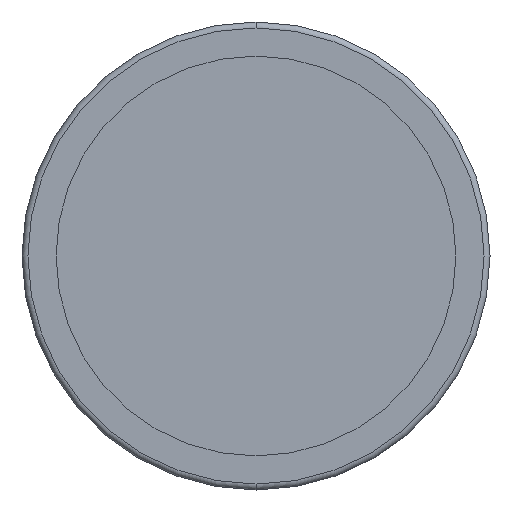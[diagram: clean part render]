
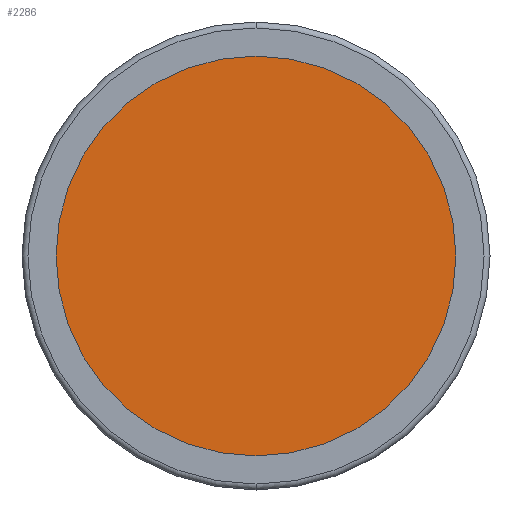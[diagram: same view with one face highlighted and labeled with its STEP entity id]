
A CAD part, front view. The second image highlights one B-rep face of the part: STEP entity #2286.
In plain terms, the highlighted planar face has unit normal (0, -1, 0).
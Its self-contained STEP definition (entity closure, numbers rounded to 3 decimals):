
#34 = DIRECTION ( 'NONE',  ( 0., 0., 1. ) ) ;
#293 = DIRECTION ( 'NONE',  ( 0., 1., 0. ) ) ;
#471 = CARTESIAN_POINT ( 'NONE',  ( -33.75, -2., 0. ) ) ;
#536 = CARTESIAN_POINT ( 'NONE',  ( 0., -2., 33.75 ) ) ;
#563 = ORIENTED_EDGE ( 'NONE', *, *, #2005, .F. ) ;
#570 = CIRCLE ( 'NONE', #1730, 33.75 ) ;
#759 = AXIS2_PLACEMENT_3D ( 'NONE', #471, #1941, #1223 ) ;
#877 = CIRCLE ( 'NONE', #2036, 33.75 ) ;
#933 = CARTESIAN_POINT ( 'NONE',  ( 0., -2., 0. ) ) ;
#1010 = VERTEX_POINT ( 'NONE', #536 ) ;
#1016 = VERTEX_POINT ( 'NONE', #2231 ) ;
#1223 = DIRECTION ( 'NONE',  ( 0., 0., -1. ) ) ;
#1611 = ORIENTED_EDGE ( 'NONE', *, *, #2167, .F. ) ;
#1692 = EDGE_LOOP ( 'NONE', ( #563, #1611 ) ) ;
#1717 = PLANE ( 'NONE',  #759 ) ;
#1730 = AXIS2_PLACEMENT_3D ( 'NONE', #2128, #293, #1795 ) ;
#1795 = DIRECTION ( 'NONE',  ( 0., 0., 1. ) ) ;
#1941 = DIRECTION ( 'NONE',  ( 0., -1., 0. ) ) ;
#2005 = EDGE_CURVE ( 'NONE', #1010, #1016, #570, .T. ) ;
#2036 = AXIS2_PLACEMENT_3D ( 'NONE', #933, #2274, #34 ) ;
#2096 = FACE_OUTER_BOUND ( 'NONE', #1692, .T. ) ;
#2128 = CARTESIAN_POINT ( 'NONE',  ( 0., -2., 0. ) ) ;
#2167 = EDGE_CURVE ( 'NONE', #1016, #1010, #877, .T. ) ;
#2231 = CARTESIAN_POINT ( 'NONE',  ( 0., -2., -33.75 ) ) ;
#2274 = DIRECTION ( 'NONE',  ( 0., 1., 0. ) ) ;
#2286 = ADVANCED_FACE ( 'NONE', ( #2096 ), #1717, .T. ) ;
